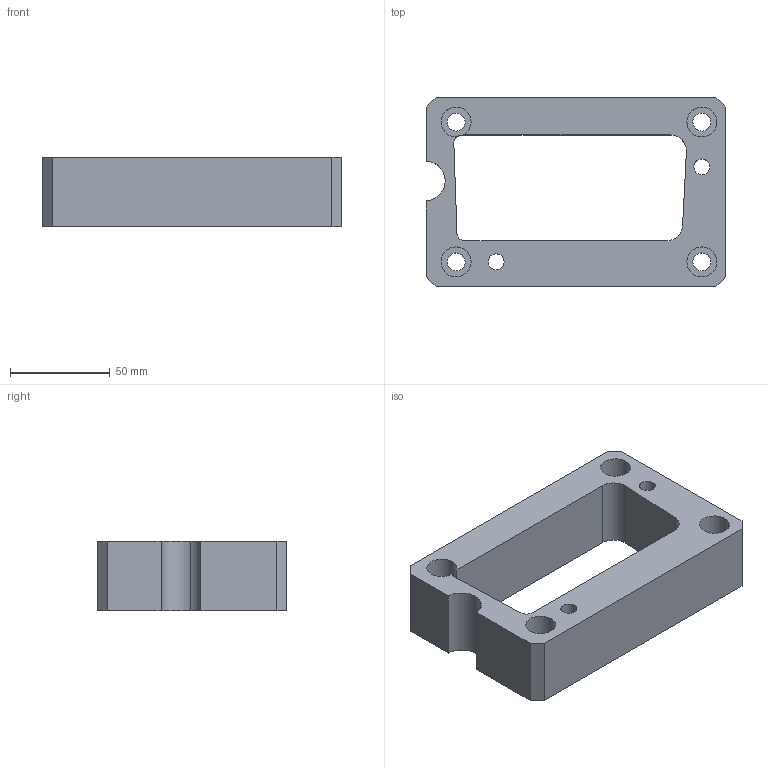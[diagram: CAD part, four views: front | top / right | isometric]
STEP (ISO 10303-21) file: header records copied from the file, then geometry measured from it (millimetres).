
FILE_DESCRIPTION(('CATIA V5 STEP Exchange','CAx-IF Rec.Pracs.--- Model Styling and Organization---1.5--- 2016-08-15','CAx-IF Rec.Pracs.---Supplemental Geometry---1.0---2011-11-01','CAx-IF Rec.Pracs.--- Composite Materials ---1.1---2010-07-15','CAx-IF Rec.Pracs.---External References---2.1---2005-01-19'),'2;1');
FILE_NAME('E:\WAT\Sprezarka\121_00_00_Tlocznik1\Tlocznik1_KPL\Tlocznik1_stp\121_03_54_Oprawa.stp','2023-08-01T08:49:44+00:00',('none'),('none'),'CATIA Version 5-6 Release 2022 SP3','CATIA V5 STEP AP214 v2','none');
FILE_SCHEMA(('AUTOMOTIVE_DESIGN { 1 0 10303 214 1 1 1 1 }'));
Length unit declared in the file: millimetre
Products named in the file (1): 121_03_54_Oprawa
Bounding box: 150 x 95 x 35 mm (x, y, z)
Volume: 261130.1 mm3; surface area: 50529.1 mm2
Topology: 1 solids, 1 shells, 46 faces, 123 edges, 82 vertices
Faces by surface type: cylinder 27, plane 19
Entity records: 1441 total; most frequent: ORIENTED_EDGE 246, CARTESIAN_POINT 236, DIRECTION 183, EDGE_CURVE 123, AXIS2_PLACEMENT_3D 86, VERTEX_POINT 82, VECTOR 68, LINE 68
